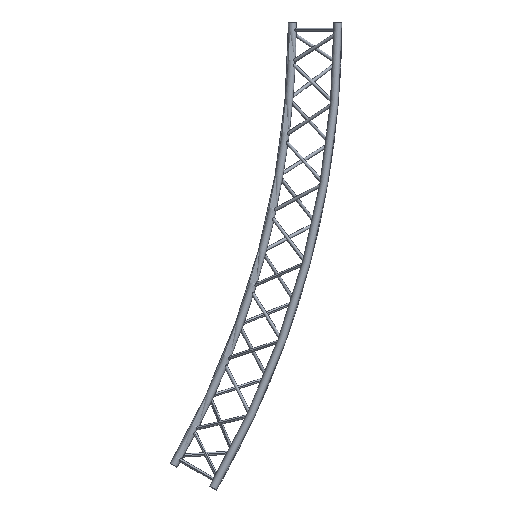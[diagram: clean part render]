
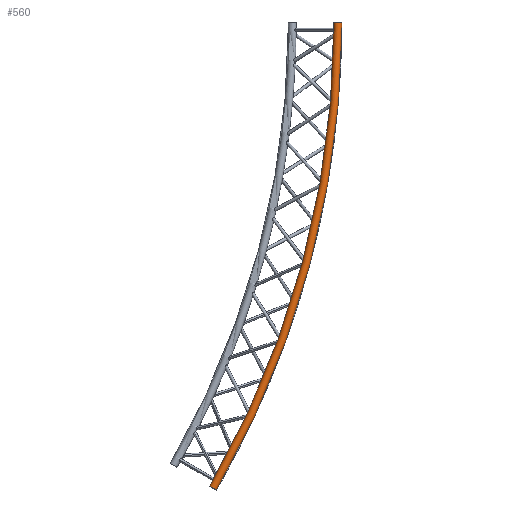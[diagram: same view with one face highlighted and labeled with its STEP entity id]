
A CAD part, front view. The second image highlights one B-rep face of the part: STEP entity #560.
In plain terms, the highlighted toroidal (fillet/blend) face has major radius 5975 mm and minor radius 25 mm.
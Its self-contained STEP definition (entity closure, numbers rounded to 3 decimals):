
#560 = ADVANCED_FACE ( 'NONE', ( #2443 ), #2436, .T. ) ;
#561 = EDGE_LOOP ( 'NONE', ( #654, #637, #640, #624 ) ) ;
#624 = ORIENTED_EDGE ( 'NONE', *, *, #625, .F. ) ;
#625 = EDGE_CURVE ( 'NONE', #656, #642, #3270, .T. ) ;
#637 = ORIENTED_EDGE ( 'NONE', *, *, #638, .T. ) ;
#638 = EDGE_CURVE ( 'NONE', #657, #639, #3477, .T. ) ;
#639 = VERTEX_POINT ( 'NONE', #3533 ) ;
#640 = ORIENTED_EDGE ( 'NONE', *, *, #641, .F. ) ;
#641 = EDGE_CURVE ( 'NONE', #642, #639, #3532, .T. ) ;
#642 = VERTEX_POINT ( 'NONE', #3527 ) ;
#654 = ORIENTED_EDGE ( 'NONE', *, *, #655, .T. ) ;
#655 = EDGE_CURVE ( 'NONE', #656, #657, #3480, .T. ) ;
#656 = VERTEX_POINT ( 'NONE', #3570 ) ;
#657 = VERTEX_POINT ( 'NONE', #3569 ) ;
#2274 = DIRECTION ( 'NONE',  ( 0., 0., -1. ) ) ;
#2275 = DIRECTION ( 'NONE',  ( 0., -1., 0. ) ) ;
#2276 = CARTESIAN_POINT ( 'NONE',  ( 0., -168.5, 0. ) ) ;
#2436 = TOROIDAL_SURFACE ( 'NONE', #2437, 5975., 25. ) ;
#2437 = AXIS2_PLACEMENT_3D ( 'NONE', #2276, #2275, #2274 ) ;
#2443 = FACE_OUTER_BOUND ( 'NONE', #561, .T. ) ;
#3270 = CIRCLE ( 'NONE', #3331, 5950. ) ;
#3307 = DIRECTION ( 'NONE',  ( 0., 0., -1. ) ) ;
#3329 = DIRECTION ( 'NONE',  ( 0., -1., 0. ) ) ;
#3330 = CARTESIAN_POINT ( 'NONE',  ( 0., -168.5, 0. ) ) ;
#3331 = AXIS2_PLACEMENT_3D ( 'NONE', #3330, #3329, #3307 ) ;
#3449 = CARTESIAN_POINT ( 'NONE',  ( 5174.502, -168.5, -2987.5 ) ) ;
#3477 = CIRCLE ( 'NONE', #3537, 6000. ) ;
#3479 = AXIS2_PLACEMENT_3D ( 'NONE', #3449, #3572, #3571 ) ;
#3480 = CIRCLE ( 'NONE', #3479, 25. ) ;
#3527 = CARTESIAN_POINT ( 'NONE',  ( 5950., -168.5, 0. ) ) ;
#3528 = DIRECTION ( 'NONE',  ( 1., 0., 0. ) ) ;
#3529 = DIRECTION ( 'NONE',  ( 0., 0., 1. ) ) ;
#3530 = CARTESIAN_POINT ( 'NONE',  ( 5975., -168.5, 0. ) ) ;
#3531 = AXIS2_PLACEMENT_3D ( 'NONE', #3530, #3529, #3528 ) ;
#3532 = CIRCLE ( 'NONE', #3531, 25. ) ;
#3533 = CARTESIAN_POINT ( 'NONE',  ( 6000., -168.5, 0. ) ) ;
#3534 = DIRECTION ( 'NONE',  ( 0., 0., -1. ) ) ;
#3535 = DIRECTION ( 'NONE',  ( 0., -1., 0. ) ) ;
#3536 = CARTESIAN_POINT ( 'NONE',  ( 0., -168.5, 0. ) ) ;
#3537 = AXIS2_PLACEMENT_3D ( 'NONE', #3536, #3535, #3534 ) ;
#3569 = CARTESIAN_POINT ( 'NONE',  ( 5196.152, -168.5, -3000. ) ) ;
#3570 = CARTESIAN_POINT ( 'NONE',  ( 5152.851, -168.5, -2975. ) ) ;
#3571 = DIRECTION ( 'NONE',  ( 0.866, 0., -0.5 ) ) ;
#3572 = DIRECTION ( 'NONE',  ( 0.5, 0., 0.866 ) ) ;
